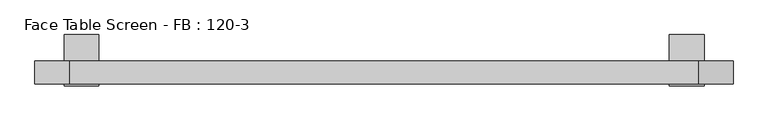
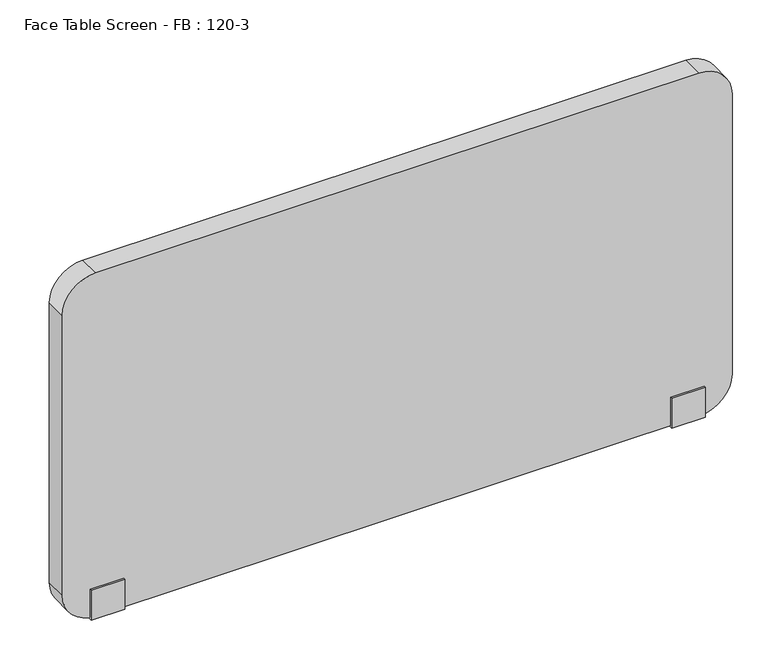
"""IFC4 building model written with IfcOpenShell, lengths in millimetres: furniture geometry, Face Table Screen - FB : 120-3."""

from ifc_helpers import new_model, si_unit, point, frame, frame_2d, origin, place, context, project, spatial, polyline, circle_curve, trimmed, segment, composite_curve, outline, extrude, source, transform, mapped, element, save


def face_table_screen_fb_120_3_214e774b(model_context):
    return source(origin(), model_context, "Body", "SweptSolid", [
        extrude(outline(polyline([(-42.9999947, -256.0), (-42.9999997, -199.0433898), (-40.0, -199.0433898), (-40.0, -253.0), (0.0, -253.0), (0.0, -22.0), (45.0, -22.0), (45.0, -25.0433898), (3.0000062, -25.0433898), (2.9999947, -256.0), (-42.9999947, -256.0)])), frame((509.9863751, 0.0, 0.0), z_axis=(1.0, 0.0, 0.0), x_axis=(0.0, 1.0, 0.0)), (0.0, 0.0, 1.0), 60.0),
        extrude(outline(polyline([(-42.9999947, -256.0), (-42.9999997, -199.0433898), (-40.0, -199.0433898), (-40.0, -253.0), (0.0, -253.0), (0.0, -22.0), (45.0, -22.0), (45.0, -25.0433898), (3.0000062, -25.0433898), (2.9999947, -256.0), (-42.9999947, -256.0)])), frame((-530.0136249, 0.0, 0.0), z_axis=(1.0, 0.0, 0.0), x_axis=(0.0, 1.0, 0.0)), (0.0, 0.0, 1.0), 60.0),
        extrude(outline(composite_curve([segment(polyline([(397.0, 559.9863751), (397.0, -520.0136249)]), True, "CONTINUOUS"), segment(trimmed(circle_curve(frame_2d((337.0, -520.0136249)), 60.0), [point((397.0, -520.0136249))], [point((337.0, -580.0136249))], False, "CARTESIAN"), True, "CONTINUOUS"), segment(polyline([(337.0, -580.0136249), (-193.0, -580.0136249)]), True, "CONTINUOUS"), segment(trimmed(circle_curve(frame_2d((-193.0, -520.0136249)), 60.0), [point((-193.0, -580.0136249))], [point((-253.0, -520.0136249))], False, "CARTESIAN"), True, "CONTINUOUS"), segment(polyline([(-253.0, -520.0136249), (-253.0, 559.9863751)]), True, "CONTINUOUS"), segment(trimmed(circle_curve(frame_2d((-193.0, 559.9863751)), 60.0), [point((-253.0, 559.9863751))], [point((-193.0, 619.9863751))], False, "CARTESIAN"), True, "CONTINUOUS"), segment(polyline([(-193.0, 619.9863751), (337.0, 619.9863751)]), True, "CONTINUOUS"), segment(trimmed(circle_curve(frame_2d((337.0, 559.9863751)), 60.0), [point((337.0, 619.9863751))], [point((397.0, 559.9863751))], False, "CARTESIAN"), True, "CONTINUOUS")], self_intersect=False)), frame((0.0, -40.0, 0.0), z_axis=(0.0, 1.0, 0.0), x_axis=(0.0, 0.0, 1.0)), (0.0, 0.0, 1.0), 40.0),
    ])


if __name__ == "__main__":
    model = new_model("IFC4")
    model_context = context("Model", 3, world=origin())
    ifc_project = project(units=[si_unit("LENGTHUNIT", "METRE", prefix="MILLI")], contexts=[model_context])
    site = spatial("IfcSite", under=ifc_project)
    building = spatial("IfcBuilding", under=site)
    placement = place(None, origin())
    face_table_screen_fb_120_3_shape = face_table_screen_fb_120_3_214e774b(model_context)
    element("IfcFurniture", 1, ObjectType="Face Table Screen - FB : 120-3", at=placement, inside=building, context=model_context, shape_type="MappedRepresentation", body=[
        mapped(face_table_screen_fb_120_3_shape, transform((0.0, 0.0, 0.0), x_axis=(1.0, 0.0, 0.0), y_axis=(0.0, 1.0, 0.0), z_axis=(0.0, 0.0, 1.0))),
    ])
    save(model, "model.ifc")
